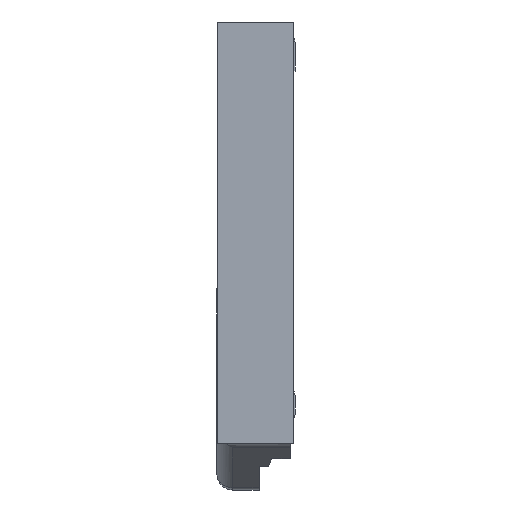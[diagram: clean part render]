
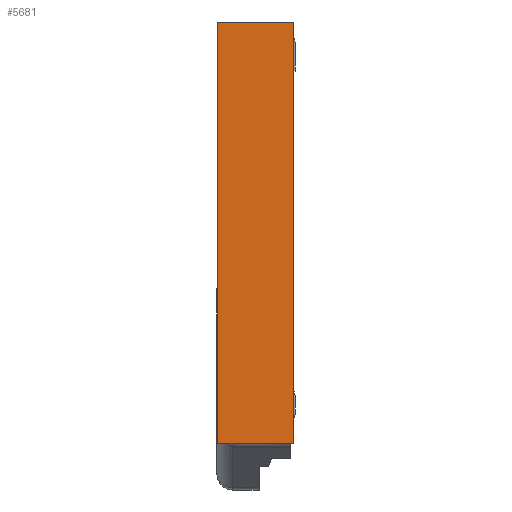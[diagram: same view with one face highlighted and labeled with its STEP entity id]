
A CAD part, left-side view. The second image highlights one B-rep face of the part: STEP entity #5681.
In plain terms, the highlighted planar face has unit normal (-1, 0, 0).
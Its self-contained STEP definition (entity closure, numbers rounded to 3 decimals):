
#347 = EDGE_CURVE ( 'NONE', #5193, #5234, #931, .T. ) ;
#348 = EDGE_CURVE ( 'NONE', #5234, #5230, #941, .T. ) ;
#349 = EDGE_CURVE ( 'NONE', #5230, #5196, #930, .T. ) ;
#383 = EDGE_CURVE ( 'NONE', #5196, #5193, #4984, .T. ) ;
#640 = EDGE_LOOP ( 'NONE', ( #2935, #2937, #2938, #2940 ) ) ;
#927 = VECTOR ( 'NONE', #4305, 1000. ) ;
#929 = VECTOR ( 'NONE', #4308, 1000. ) ;
#930 = LINE ( 'NONE', #4307, #927 ) ;
#931 = LINE ( 'NONE', #4218, #936 ) ;
#936 = VECTOR ( 'NONE', #4270, 1000. ) ;
#941 = LINE ( 'NONE', #4216, #929 ) ;
#1523 = CARTESIAN_POINT ( 'NONE',  ( -3.35, 0.01, -0.1 ) ) ;
#1526 = CARTESIAN_POINT ( 'NONE',  ( -3.35, 0.01, 2.6 ) ) ;
#1560 = CARTESIAN_POINT ( 'NONE',  ( -3.35, 0.5, 2.6 ) ) ;
#1564 = CARTESIAN_POINT ( 'NONE',  ( -3.35, 0.5, -0.1 ) ) ;
#1927 = FACE_OUTER_BOUND ( 'NONE', #640, .T. ) ;
#2935 = ORIENTED_EDGE ( 'NONE', *, *, #349, .F. ) ;
#2937 = ORIENTED_EDGE ( 'NONE', *, *, #348, .F. ) ;
#2938 = ORIENTED_EDGE ( 'NONE', *, *, #347, .F. ) ;
#2940 = ORIENTED_EDGE ( 'NONE', *, *, #383, .F. ) ;
#3567 = DIRECTION ( 'NONE',  ( 0., 0., -1. ) ) ;
#3568 = CARTESIAN_POINT ( 'NONE',  ( -3.35, 0.01, 1.25 ) ) ;
#3715 = AXIS2_PLACEMENT_3D ( 'NONE', #3935, #3946, #3947 ) ;
#3935 = CARTESIAN_POINT ( 'NONE',  ( -3.35, 0.01, 2.6 ) ) ;
#3944 = PLANE ( 'NONE',  #3715 ) ;
#3946 = DIRECTION ( 'NONE',  ( 1., 0., 0. ) ) ;
#3947 = DIRECTION ( 'NONE',  ( 0., 0., -1. ) ) ;
#4216 = CARTESIAN_POINT ( 'NONE',  ( -3.35, 0.5, 1.15 ) ) ;
#4218 = CARTESIAN_POINT ( 'NONE',  ( -3.35, 0.255, -0.1 ) ) ;
#4270 = DIRECTION ( 'NONE',  ( 0., 1., 0. ) ) ;
#4305 = DIRECTION ( 'NONE',  ( 0., -1., 0. ) ) ;
#4307 = CARTESIAN_POINT ( 'NONE',  ( -3.35, 0.255, 2.6 ) ) ;
#4308 = DIRECTION ( 'NONE',  ( 0., 0., 1. ) ) ;
#4981 = VECTOR ( 'NONE', #3567, 1000. ) ;
#4984 = LINE ( 'NONE', #3568, #4981 ) ;
#5193 = VERTEX_POINT ( 'NONE', #1523 ) ;
#5196 = VERTEX_POINT ( 'NONE', #1526 ) ;
#5230 = VERTEX_POINT ( 'NONE', #1560 ) ;
#5234 = VERTEX_POINT ( 'NONE', #1564 ) ;
#5681 = ADVANCED_FACE ( 'NONE', ( #1927 ), #3944, .F. ) ;
